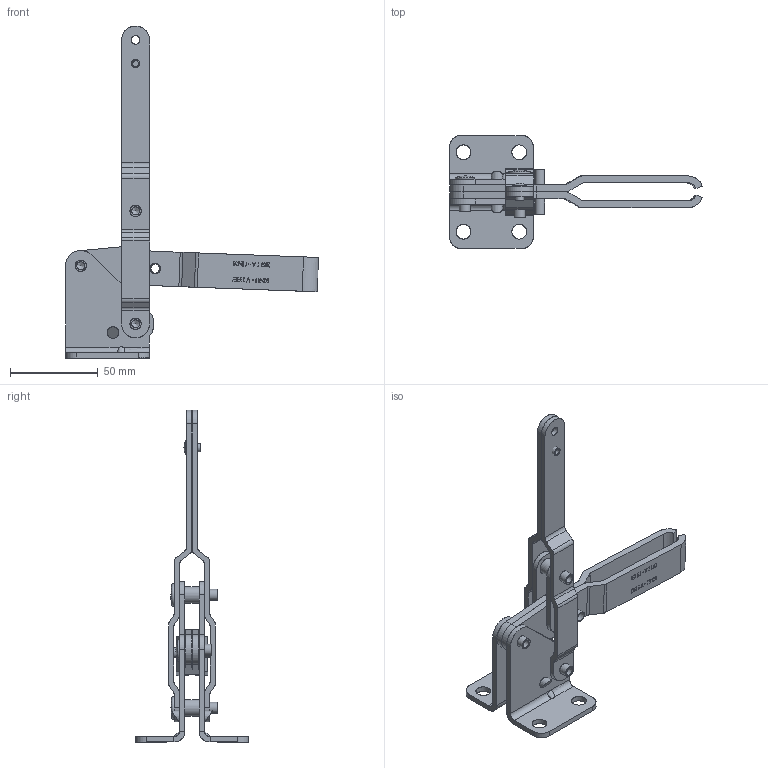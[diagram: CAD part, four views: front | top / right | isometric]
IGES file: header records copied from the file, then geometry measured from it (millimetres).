
Global section: file name: C:\T&M Tech\Carbide Tech\Work\600 series\v-600.igs; native system: Unigraphics Version X V1.0; preprocessor: Unigraphics NX IGES V1.0; date: 20040408.104532; units: inch
Bounding box: 143.98 x 64.29 x 188.97 mm (x, y, z)
Surface area: 102327.9 mm2 (no closed solid volume)
Topology: 0 solids, 0 shells, 1884 faces, 16856 edges, 16736 vertices
Faces by surface type: extrusion 1614, revolution 270
